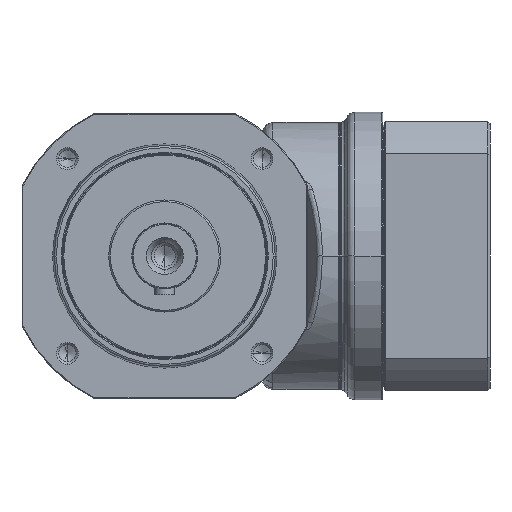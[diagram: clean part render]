
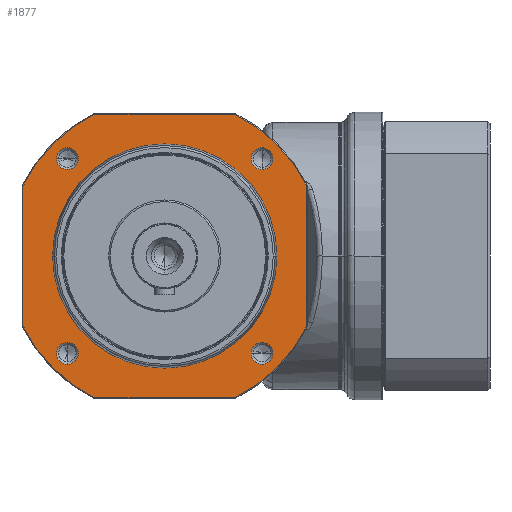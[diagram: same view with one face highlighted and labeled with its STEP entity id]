
A CAD part, left-side view. The second image highlights one B-rep face of the part: STEP entity #1877.
In plain terms, the highlighted planar face has unit normal (-1, 0, 0).
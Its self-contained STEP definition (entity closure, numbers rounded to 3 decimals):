
#332=CARTESIAN_POINT('',(14.5,47.73,47.73));
#333=DIRECTION('',(1.,0.,0.));
#334=DIRECTION('',(0.,-1.,0.));
#335=AXIS2_PLACEMENT_3D('',#332,#333,#334);
#337=CARTESIAN_POINT('',(14.5,47.73,47.73));
#338=DIRECTION('',(1.,0.,0.));
#339=DIRECTION('',(0.,1.,0.));
#340=AXIS2_PLACEMENT_3D('',#337,#338,#339);
#342=CARTESIAN_POINT('',(14.5,47.73,-47.73));
#343=DIRECTION('',(1.,0.,0.));
#344=DIRECTION('',(0.,0.,-1.));
#345=AXIS2_PLACEMENT_3D('',#342,#343,#344);
#347=CARTESIAN_POINT('',(14.5,47.73,-47.73));
#348=DIRECTION('',(1.,0.,0.));
#349=DIRECTION('',(0.,0.,1.));
#350=AXIS2_PLACEMENT_3D('',#347,#348,#349);
#352=CARTESIAN_POINT('',(14.5,-47.73,-47.73));
#353=DIRECTION('',(1.,0.,0.));
#354=DIRECTION('',(0.,-1.,0.));
#355=AXIS2_PLACEMENT_3D('',#352,#353,#354);
#357=CARTESIAN_POINT('',(14.5,-47.73,-47.73));
#358=DIRECTION('',(1.,0.,0.));
#359=DIRECTION('',(0.,1.,0.));
#360=AXIS2_PLACEMENT_3D('',#357,#358,#359);
#362=CARTESIAN_POINT('',(14.5,-47.73,47.73));
#363=DIRECTION('',(1.,0.,0.));
#364=DIRECTION('',(0.,0.,1.));
#365=AXIS2_PLACEMENT_3D('',#362,#363,#364);
#367=CARTESIAN_POINT('',(14.5,-47.73,47.73));
#368=DIRECTION('',(1.,0.,0.));
#369=DIRECTION('',(0.,0.,-1.));
#370=AXIS2_PLACEMENT_3D('',#367,#368,#369);
#372=CARTESIAN_POINT('',(14.5,0.,0.));
#373=DIRECTION('',(-1.,0.,0.));
#374=DIRECTION('',(0.,1.,0.));
#375=AXIS2_PLACEMENT_3D('',#372,#373,#374);
#377=CARTESIAN_POINT('',(14.5,0.,0.));
#378=DIRECTION('',(-1.,0.,0.));
#379=DIRECTION('',(0.,-1.,0.));
#380=AXIS2_PLACEMENT_3D('',#377,#378,#379);
#382=DIRECTION('',(0.,0.,1.));
#383=VECTOR('',#382,68.633);
#384=CARTESIAN_POINT('',(14.5,-69.6,-34.316));
#385=LINE('',#384,#383);
#386=CARTESIAN_POINT('',(14.5,0.,0.));
#387=DIRECTION('',(-1.,0.,0.));
#388=DIRECTION('',(0.,-0.442,-0.897));
#389=AXIS2_PLACEMENT_3D('',#386,#387,#388);
#391=DIRECTION('',(0.,-1.,0.));
#392=VECTOR('',#391,68.633);
#393=CARTESIAN_POINT('',(14.5,34.316,-69.6));
#394=LINE('',#393,#392);
#395=CARTESIAN_POINT('',(14.5,0.,0.));
#396=DIRECTION('',(-1.,0.,0.));
#397=DIRECTION('',(0.,0.897,-0.442));
#398=AXIS2_PLACEMENT_3D('',#395,#396,#397);
#400=DIRECTION('',(0.,0.,-1.));
#401=VECTOR('',#400,68.633);
#402=CARTESIAN_POINT('',(14.5,69.6,34.316));
#403=LINE('',#402,#401);
#404=CARTESIAN_POINT('',(14.5,0.,0.));
#405=DIRECTION('',(-1.,0.,0.));
#406=DIRECTION('',(0.,0.442,0.897));
#407=AXIS2_PLACEMENT_3D('',#404,#405,#406);
#409=DIRECTION('',(0.,1.,0.));
#410=VECTOR('',#409,68.633);
#411=CARTESIAN_POINT('',(14.5,-34.316,69.6));
#412=LINE('',#411,#410);
#413=CARTESIAN_POINT('',(14.5,0.,0.));
#414=DIRECTION('',(-1.,0.,0.));
#415=DIRECTION('',(0.,-0.897,0.442));
#416=AXIS2_PLACEMENT_3D('',#413,#414,#415);
#1129=CARTESIAN_POINT('',(14.5,42.38,47.73));
#1130=CARTESIAN_POINT('',(14.5,53.08,47.73));
#1131=VERTEX_POINT('',#1129);
#1132=VERTEX_POINT('',#1130);
#1133=CARTESIAN_POINT('',(14.5,47.73,-53.08));
#1134=CARTESIAN_POINT('',(14.5,47.73,-42.38));
#1135=VERTEX_POINT('',#1133);
#1136=VERTEX_POINT('',#1134);
#1137=CARTESIAN_POINT('',(14.5,-53.08,
-47.73));
#1138=CARTESIAN_POINT('',(14.5,-42.38,
-47.73));
#1139=VERTEX_POINT('',#1137);
#1140=VERTEX_POINT('',#1138);
#1141=CARTESIAN_POINT('',(14.5,-47.73,53.08));
#1142=CARTESIAN_POINT('',(14.5,-47.73,42.38));
#1143=VERTEX_POINT('',#1141);
#1144=VERTEX_POINT('',#1142);
#1189=CARTESIAN_POINT('',(14.5,-69.6,
-34.316));
#1190=CARTESIAN_POINT('',(14.5,-69.6,34.316));
#1191=VERTEX_POINT('',#1189);
#1192=VERTEX_POINT('',#1190);
#1193=CARTESIAN_POINT('',(14.5,-34.316,69.6));
#1194=CARTESIAN_POINT('',(14.5,34.316,69.6));
#1195=VERTEX_POINT('',#1193);
#1196=VERTEX_POINT('',#1194);
#1201=CARTESIAN_POINT('',(14.5,69.6,34.316));
#1202=CARTESIAN_POINT('',(14.5,69.6,-34.316));
#1203=VERTEX_POINT('',#1201);
#1204=VERTEX_POINT('',#1202);
#1213=CARTESIAN_POINT('',(14.5,34.316,-69.6));
#1214=CARTESIAN_POINT('',(14.5,-34.316,
-69.6));
#1215=VERTEX_POINT('',#1213);
#1216=VERTEX_POINT('',#1214);
#1229=CARTESIAN_POINT('',(14.5,55.,0.));
#1230=CARTESIAN_POINT('',(14.5,-55.,0.));
#1231=VERTEX_POINT('',#1229);
#1232=VERTEX_POINT('',#1230);
#1825=CARTESIAN_POINT('',(14.5,0.,0.));
#1826=DIRECTION('',(-1.,0.,0.));
#1827=DIRECTION('',(0.,1.,0.));
#1828=AXIS2_PLACEMENT_3D('',#1825,#1826,#1827);
#1829=PLANE('',#1828);
#1831=ORIENTED_EDGE('',*,*,#1830,.F.);
#1833=ORIENTED_EDGE('',*,*,#1832,.F.);
#1835=ORIENTED_EDGE('',*,*,#1834,.F.);
#1837=ORIENTED_EDGE('',*,*,#1836,.F.);
#1839=ORIENTED_EDGE('',*,*,#1838,.F.);
#1841=ORIENTED_EDGE('',*,*,#1840,.F.);
#1843=ORIENTED_EDGE('',*,*,#1842,.F.);
#1845=ORIENTED_EDGE('',*,*,#1844,.F.);
#1846=EDGE_LOOP('',(#1831,#1833,#1835,#1837,#1839,#1841,#1843,#1845));
#1847=FACE_OUTER_BOUND('',#1846,.F.);
#1849=ORIENTED_EDGE('',*,*,#1848,.F.);
#1851=ORIENTED_EDGE('',*,*,#1850,.F.);
#1852=EDGE_LOOP('',(#1849,#1851));
#1853=FACE_BOUND('',#1852,.F.);
#1855=ORIENTED_EDGE('',*,*,#1854,.F.);
#1857=ORIENTED_EDGE('',*,*,#1856,.F.);
#1858=EDGE_LOOP('',(#1855,#1857));
#1859=FACE_BOUND('',#1858,.F.);
#1861=ORIENTED_EDGE('',*,*,#1860,.F.);
#1863=ORIENTED_EDGE('',*,*,#1862,.F.);
#1864=EDGE_LOOP('',(#1861,#1863));
#1865=FACE_BOUND('',#1864,.F.);
#1867=ORIENTED_EDGE('',*,*,#1866,.F.);
#1869=ORIENTED_EDGE('',*,*,#1868,.F.);
#1870=EDGE_LOOP('',(#1867,#1869));
#1871=FACE_BOUND('',#1870,.F.);
#1873=ORIENTED_EDGE('',*,*,#1872,.T.);
#1874=ORIENTED_EDGE('',*,*,#1815,.T.);
#1875=EDGE_LOOP('',(#1873,#1874));
#1876=FACE_BOUND('',#1875,.F.);
#1877=ADVANCED_FACE('',(#1847,#1853,#1859,#1865,#1871,#1876),#1829,.T.);
#336=CIRCLE('',#335,5.35);
#341=CIRCLE('',#340,5.35);
#346=CIRCLE('',#345,5.35);
#351=CIRCLE('',#350,5.35);
#356=CIRCLE('',#355,5.35);
#361=CIRCLE('',#360,5.35);
#366=CIRCLE('',#365,5.35);
#371=CIRCLE('',#370,5.35);
#376=CIRCLE('',#375,55.);
#381=CIRCLE('',#380,55.);
#390=CIRCLE('',#389,77.6);
#399=CIRCLE('',#398,77.6);
#408=CIRCLE('',#407,77.6);
#417=CIRCLE('',#416,77.6);
#1815=EDGE_CURVE('',#1232,#1231,#381,.T.);
#1830=EDGE_CURVE('',#1191,#1192,#385,.T.);
#1832=EDGE_CURVE('',#1216,#1191,#390,.T.);
#1834=EDGE_CURVE('',#1215,#1216,#394,.T.);
#1836=EDGE_CURVE('',#1204,#1215,#399,.T.);
#1838=EDGE_CURVE('',#1203,#1204,#403,.T.);
#1840=EDGE_CURVE('',#1196,#1203,#408,.T.);
#1842=EDGE_CURVE('',#1195,#1196,#412,.T.);
#1844=EDGE_CURVE('',#1192,#1195,#417,.T.);
#1848=EDGE_CURVE('',#1131,#1132,#336,.T.);
#1850=EDGE_CURVE('',#1132,#1131,#341,.T.);
#1854=EDGE_CURVE('',#1135,#1136,#346,.T.);
#1856=EDGE_CURVE('',#1136,#1135,#351,.T.);
#1860=EDGE_CURVE('',#1139,#1140,#356,.T.);
#1862=EDGE_CURVE('',#1140,#1139,#361,.T.);
#1866=EDGE_CURVE('',#1143,#1144,#366,.T.);
#1868=EDGE_CURVE('',#1144,#1143,#371,.T.);
#1872=EDGE_CURVE('',#1231,#1232,#376,.T.);
